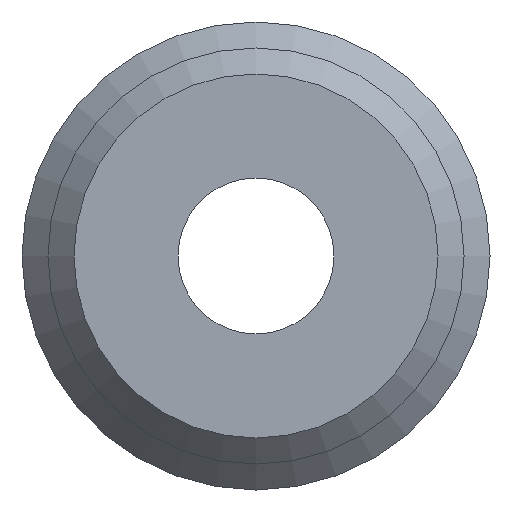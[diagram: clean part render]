
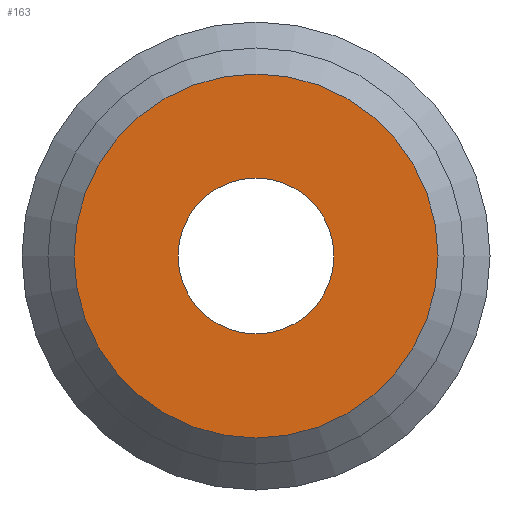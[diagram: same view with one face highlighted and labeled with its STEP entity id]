
A CAD part, front view. The second image highlights one B-rep face of the part: STEP entity #163.
In plain terms, the highlighted planar face has unit normal (0, -1, 0).
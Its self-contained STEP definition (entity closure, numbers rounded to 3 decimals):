
#121=CARTESIAN_POINT('',(-3.5,0.,0.));
#122=VERTEX_POINT('',#121);
#123=CARTESIAN_POINT('',(0.0,0.,0.0));
#124=DIRECTION('',(0.0,1.0,0.0));
#125=DIRECTION('',(1.0,0.0,0.0));
#126=AXIS2_PLACEMENT_3D('',#123,#124,#125);
#127=CIRCLE('',#126,3.5);
#128=EDGE_CURVE('',#122,#122,#127,.T.);
#144=CARTESIAN_POINT('',(-2.75,0.,0.0));
#145=DIRECTION('',(0.0,-1.0,0.0));
#146=DIRECTION('',(0.0,0.0,-1.0));
#147=AXIS2_PLACEMENT_3D('',#144,#145,#146);
#148=PLANE('',#147);
#149=ORIENTED_EDGE('',*,*,#128,.F.);
#150=EDGE_LOOP('',(#149));
#151=FACE_OUTER_BOUND('',#150,.T.);
#152=CARTESIAN_POINT('',(-1.5,0.,0.0));
#153=VERTEX_POINT('',#152);
#154=CARTESIAN_POINT('',(0.0,0.,0.0));
#155=DIRECTION('',(0.0,1.0,0.0));
#156=DIRECTION('',(-1.0,0.0,0.0));
#157=AXIS2_PLACEMENT_3D('',#154,#155,#156);
#158=CIRCLE('',#157,1.5);
#159=EDGE_CURVE('',#153,#153,#158,.T.);
#160=ORIENTED_EDGE('',*,*,#159,.T.);
#161=EDGE_LOOP('',(#160));
#162=FACE_BOUND('',#161,.T.);
#163=ADVANCED_FACE('',(#151,#162),#148,.T.);
